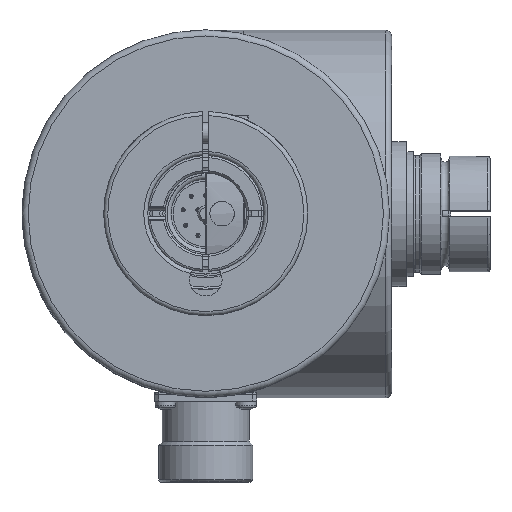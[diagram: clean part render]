
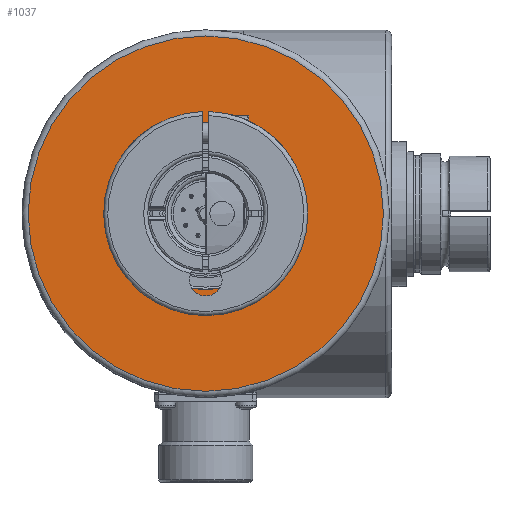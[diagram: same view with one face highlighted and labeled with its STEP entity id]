
A CAD part, top view. The second image highlights one B-rep face of the part: STEP entity #1037.
In plain terms, the highlighted planar face has unit normal (0, 0, 1) as drawn and (1, 0, 0) by its records, which use the part's own axes.
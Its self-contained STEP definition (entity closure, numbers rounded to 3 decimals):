
#1037 = ADVANCED_FACE( '', ( #2144, #2145 ), #2146, .T. );
#2144 = FACE_OUTER_BOUND( '', #3815, .T. );
#2145 = FACE_BOUND( '', #3816, .T. );
#2146 = PLANE( '', #3817 );
#3815 = EDGE_LOOP( '', ( #6483 ) );
#3816 = EDGE_LOOP( '', ( #6484 ) );
#3817 = AXIS2_PLACEMENT_3D( '', #6485, #6486, #6487 );
#6483 = ORIENTED_EDGE( '', *, *, #9583, .T. );
#6484 = ORIENTED_EDGE( '', *, *, #9584, .T. );
#6485 = CARTESIAN_POINT( '', ( 45.5, 0., 45. ) );
#6486 = DIRECTION( '', ( 1., 0., 0. ) );
#6487 = DIRECTION( '', ( 0., 0., -1. ) );
#9583 = EDGE_CURVE( '', #11159, #11159, #11160, .T. );
#9584 = EDGE_CURVE( '', #11161, #11161, #11162, .T. );
#11159 = VERTEX_POINT( '', #14438 );
#11160 = CIRCLE( '', #14439, 43.5 );
#11161 = VERTEX_POINT( '', #14440 );
#11162 = CIRCLE( '', #14441, 18.607 );
#14438 = CARTESIAN_POINT( '', ( 45.5, 0., -43.5 ) );
#14439 = AXIS2_PLACEMENT_3D( '', #18109, #18110, #18111 );
#14440 = CARTESIAN_POINT( '', ( 45.5, 0., 18.607 ) );
#14441 = AXIS2_PLACEMENT_3D( '', #18112, #18113, #18114 );
#18109 = CARTESIAN_POINT( '', ( 45.5, 0., 0. ) );
#18110 = DIRECTION( '', ( 1., 0., 0. ) );
#18111 = DIRECTION( '', ( 0., 0., -1. ) );
#18112 = CARTESIAN_POINT( '', ( 45.5, 0., 0. ) );
#18113 = DIRECTION( '', ( -1., 0., 0. ) );
#18114 = DIRECTION( '', ( 0., 0., 1. ) );
